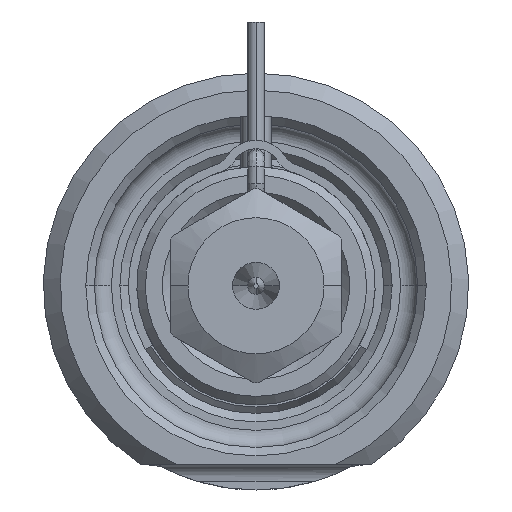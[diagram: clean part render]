
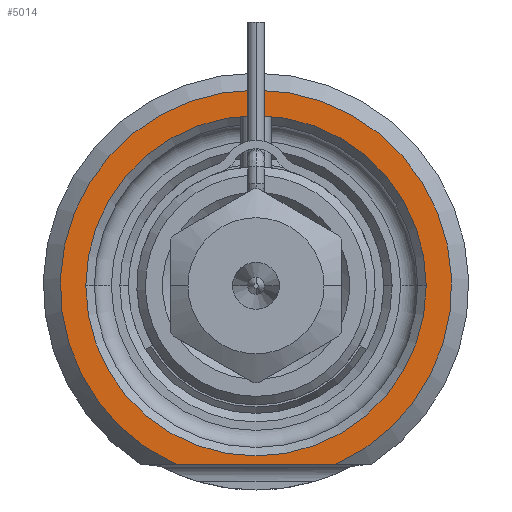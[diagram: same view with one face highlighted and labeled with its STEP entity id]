
A CAD part, front view. The second image highlights one B-rep face of the part: STEP entity #5014.
In plain terms, the highlighted planar face has unit normal (0, -1, 0).
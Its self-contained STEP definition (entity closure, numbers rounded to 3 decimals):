
#1212=CARTESIAN_POINT('',(0.,0.,0.));
#1213=DIRECTION('',(0.,-1.,0.));
#1214=DIRECTION('',(0.408,0.,-0.913));
#1215=AXIS2_PLACEMENT_3D('',#1212,#1213,#1214);
#1236=DIRECTION('',(1.,0.,0.));
#1237=VECTOR('',#1236,9.381);
#1238=CARTESIAN_POINT('',(-4.69,0.,-10.5));
#1239=LINE('',#1238,#1237);
#1240=CARTESIAN_POINT('',(0.,0.,0.));
#1241=DIRECTION('',(0.,1.,0.));
#1242=DIRECTION('',(-1.,0.,0.));
#1243=AXIS2_PLACEMENT_3D('',#1240,#1241,#1242);
#1245=CARTESIAN_POINT('',(0.,0.,0.));
#1246=DIRECTION('',(0.,1.,0.));
#1247=DIRECTION('',(1.,0.,0.));
#1248=AXIS2_PLACEMENT_3D('',#1245,#1246,#1247);
#3288=CARTESIAN_POINT('',(-10.,0.,0.));
#3289=CARTESIAN_POINT('',(10.,0.,0.));
#3290=VERTEX_POINT('',#3288);
#3291=VERTEX_POINT('',#3289);
#3346=CARTESIAN_POINT('',(-4.69,0.,-10.5));
#3347=CARTESIAN_POINT('',(4.69,0.,-10.5));
#3348=VERTEX_POINT('',#3346);
#3349=VERTEX_POINT('',#3347);
#4999=CARTESIAN_POINT('',(0.,0.,0.));
#5000=DIRECTION('',(0.,-1.,0.));
#5001=DIRECTION('',(1.,0.,0.));
#5002=AXIS2_PLACEMENT_3D('',#4999,#5000,#5001);
#5003=PLANE('',#5002);
#5004=ORIENTED_EDGE('',*,*,#4934,.F.);
#5005=ORIENTED_EDGE('',*,*,#4991,.F.);
#5006=EDGE_LOOP('',(#5004,#5005));
#5007=FACE_OUTER_BOUND('',#5006,.F.);
#5009=ORIENTED_EDGE('',*,*,#5008,.F.);
#5011=ORIENTED_EDGE('',*,*,#5010,.F.);
#5012=EDGE_LOOP('',(#5009,#5011));
#5013=FACE_BOUND('',#5012,.F.);
#5014=ADVANCED_FACE('',(#5007,#5013),#5003,.T.);
#1216=CIRCLE('',#1215,11.5);
#1244=CIRCLE('',#1243,10.);
#1249=CIRCLE('',#1248,10.);
#4934=EDGE_CURVE('',#3348,#3349,#1239,.T.);
#4991=EDGE_CURVE('',#3349,#3348,#1216,.T.);
#5008=EDGE_CURVE('',#3290,#3291,#1244,.T.);
#5010=EDGE_CURVE('',#3291,#3290,#1249,.T.);
